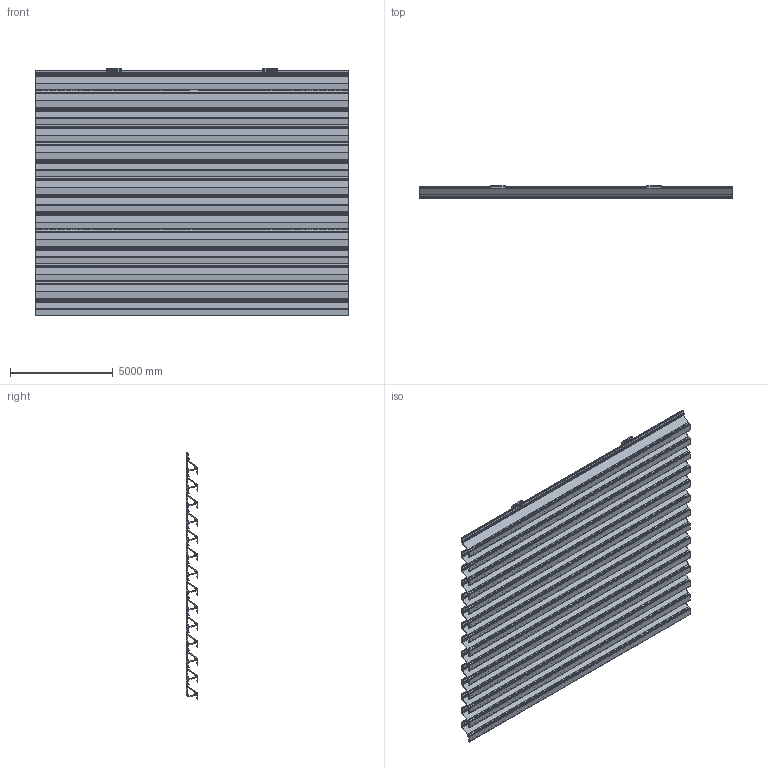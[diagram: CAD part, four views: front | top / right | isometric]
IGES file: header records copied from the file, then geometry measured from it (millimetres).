
Global section: file name: 3D_L_033-01; native system: AutoCAD 2023 - English; preprocessor: Autodesk Translation Framework DWG producer (atf_dwg_producer); organization: unknown; date: 20260203.132552; units: inch
Bounding box: 15240 x 568.96 x 12073.33 mm (x, y, z)
Volume: 1574085086.7 mm3; surface area: 631062893.8 mm2
Topology: 2 solids, 2 shells, 1534 faces, 6480 edges, 5468 vertices
Faces by surface type: bspline 1254, revolution 280
